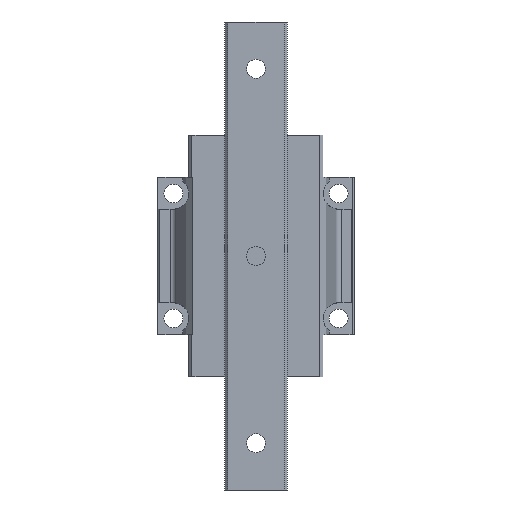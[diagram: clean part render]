
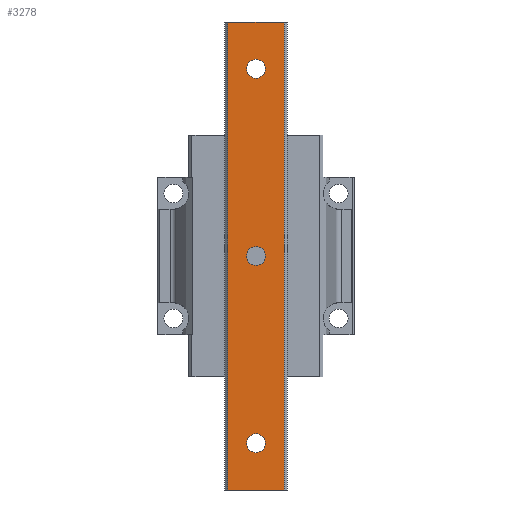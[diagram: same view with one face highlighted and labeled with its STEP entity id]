
A CAD part, front view. The second image highlights one B-rep face of the part: STEP entity #3278.
In plain terms, the highlighted planar face has unit normal (0, -1, 0).
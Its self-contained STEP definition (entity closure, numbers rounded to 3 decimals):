
#21 = AXIS2_PLACEMENT_3D ( 'NONE', #4701, #87, #6199 ) ;
#58 = VERTEX_POINT ( 'NONE', #2494 ) ;
#87 = DIRECTION ( 'NONE',  ( 0., 1., 0. ) ) ;
#235 = PLANE ( 'NONE',  #4754 ) ;
#254 = AXIS2_PLACEMENT_3D ( 'NONE', #7608, #3429, #2137 ) ;
#304 = CIRCLE ( 'NONE', #21, 3. ) ;
#331 = EDGE_CURVE ( 'NONE', #58, #2628, #2534, .T. ) ;
#347 = CARTESIAN_POINT ( 'NONE',  ( 9., -17.5, -75. ) ) ;
#463 = EDGE_CURVE ( 'NONE', #1224, #7275, #6432, .T. ) ;
#686 = CIRCLE ( 'NONE', #1517, 3. ) ;
#863 = DIRECTION ( 'NONE',  ( 0., -1., 0. ) ) ;
#1031 = ORIENTED_EDGE ( 'NONE', *, *, #5999, .T. ) ;
#1224 = VERTEX_POINT ( 'NONE', #1362 ) ;
#1246 = DIRECTION ( 'NONE',  ( 0., 0., -1. ) ) ;
#1305 = EDGE_CURVE ( 'NONE', #4854, #1670, #304, .T. ) ;
#1362 = CARTESIAN_POINT ( 'NONE',  ( 0., -17.5, 3. ) ) ;
#1402 = DIRECTION ( 'NONE',  ( 0., 1., 0. ) ) ;
#1509 = FACE_BOUND ( 'NONE', #4033, .T. ) ;
#1517 = AXIS2_PLACEMENT_3D ( 'NONE', #6060, #1955, #7933 ) ;
#1558 = DIRECTION ( 'NONE',  ( 0., 0., -1. ) ) ;
#1589 = CARTESIAN_POINT ( 'NONE',  ( 0., -17.5, -3. ) ) ;
#1670 = VERTEX_POINT ( 'NONE', #4354 ) ;
#1760 = CARTESIAN_POINT ( 'NONE',  ( -9., -17.5, -75. ) ) ;
#1955 = DIRECTION ( 'NONE',  ( 0., 1., 0. ) ) ;
#1958 = EDGE_CURVE ( 'NONE', #2825, #6017, #4551, .T. ) ;
#2031 = DIRECTION ( 'NONE',  ( 0., 0., 1. ) ) ;
#2049 = EDGE_LOOP ( 'NONE', ( #1031, #2946, #3529, #4748 ) ) ;
#2137 = DIRECTION ( 'NONE',  ( 0., 0., 1. ) ) ;
#2162 = FACE_OUTER_BOUND ( 'NONE', #2049, .T. ) ;
#2214 = CARTESIAN_POINT ( 'NONE',  ( -9., -17.5, -75. ) ) ;
#2414 = CARTESIAN_POINT ( 'NONE',  ( -9., -17.5, -75. ) ) ;
#2494 = CARTESIAN_POINT ( 'NONE',  ( 9., -17.5, 75. ) ) ;
#2531 = EDGE_CURVE ( 'NONE', #7275, #1224, #3167, .T. ) ;
#2534 = LINE ( 'NONE', #7158, #6923 ) ;
#2553 = ORIENTED_EDGE ( 'NONE', *, *, #463, .T. ) ;
#2578 = EDGE_CURVE ( 'NONE', #1670, #4854, #686, .T. ) ;
#2628 = VERTEX_POINT ( 'NONE', #4560 ) ;
#2775 = CARTESIAN_POINT ( 'NONE',  ( 0., -17.5, 0. ) ) ;
#2825 = VERTEX_POINT ( 'NONE', #4646 ) ;
#2841 = ORIENTED_EDGE ( 'NONE', *, *, #1305, .T. ) ;
#2946 = ORIENTED_EDGE ( 'NONE', *, *, #331, .T. ) ;
#3087 = DIRECTION ( 'NONE',  ( 0., 0., 1. ) ) ;
#3089 = VECTOR ( 'NONE', #3087, 1000. ) ;
#3151 = ORIENTED_EDGE ( 'NONE', *, *, #1958, .T. ) ;
#3167 = CIRCLE ( 'NONE', #7774, 3. ) ;
#3261 = DIRECTION ( 'NONE',  ( 0., 0., 1. ) ) ;
#3278 = ADVANCED_FACE ( 'NONE', ( #4066, #1509, #7465, #2162 ), #235, .T. ) ;
#3429 = DIRECTION ( 'NONE',  ( 0., 1., 0. ) ) ;
#3470 = DIRECTION ( 'NONE',  ( 1., 0., 0. ) ) ;
#3524 = LINE ( 'NONE', #2214, #5680 ) ;
#3529 = ORIENTED_EDGE ( 'NONE', *, *, #3790, .T. ) ;
#3790 = EDGE_CURVE ( 'NONE', #2628, #7003, #8482, .T. ) ;
#4033 = EDGE_LOOP ( 'NONE', ( #7313, #3151 ) ) ;
#4066 = FACE_BOUND ( 'NONE', #8055, .T. ) ;
#4188 = CARTESIAN_POINT ( 'NONE',  ( 0., -17.5, 0. ) ) ;
#4265 = ORIENTED_EDGE ( 'NONE', *, *, #2531, .T. ) ;
#4354 = CARTESIAN_POINT ( 'NONE',  ( 0., -17.5, -57. ) ) ;
#4499 = DIRECTION ( 'NONE',  ( 0., 1., 0. ) ) ;
#4551 = CIRCLE ( 'NONE', #254, 3. ) ;
#4560 = CARTESIAN_POINT ( 'NONE',  ( -9., -17.5, 75. ) ) ;
#4646 = CARTESIAN_POINT ( 'NONE',  ( 0., -17.5, 57. ) ) ;
#4699 = AXIS2_PLACEMENT_3D ( 'NONE', #5349, #4499, #2031 ) ;
#4701 = CARTESIAN_POINT ( 'NONE',  ( 0., -17.5, -60. ) ) ;
#4748 = ORIENTED_EDGE ( 'NONE', *, *, #7515, .T. ) ;
#4754 = AXIS2_PLACEMENT_3D ( 'NONE', #6828, #863, #1558 ) ;
#4854 = VERTEX_POINT ( 'NONE', #8261 ) ;
#5030 = VECTOR ( 'NONE', #1246, 1000. ) ;
#5093 = CARTESIAN_POINT ( 'NONE',  ( 0., -17.5, 63. ) ) ;
#5349 = CARTESIAN_POINT ( 'NONE',  ( 0., -17.5, 60. ) ) ;
#5401 = CIRCLE ( 'NONE', #4699, 3. ) ;
#5680 = VECTOR ( 'NONE', #3470, 1000. ) ;
#5856 = ORIENTED_EDGE ( 'NONE', *, *, #2578, .T. ) ;
#5999 = EDGE_CURVE ( 'NONE', #7009, #58, #6418, .T. ) ;
#6017 = VERTEX_POINT ( 'NONE', #5093 ) ;
#6033 = DIRECTION ( 'NONE',  ( 0., 1., 0. ) ) ;
#6060 = CARTESIAN_POINT ( 'NONE',  ( 0., -17.5, -60. ) ) ;
#6199 = DIRECTION ( 'NONE',  ( 0., 0., 1. ) ) ;
#6418 = LINE ( 'NONE', #347, #3089 ) ;
#6432 = CIRCLE ( 'NONE', #7236, 3. ) ;
#6828 = CARTESIAN_POINT ( 'NONE',  ( -9., -17.5, -75. ) ) ;
#6902 = DIRECTION ( 'NONE',  ( 0., 0., 1. ) ) ;
#6923 = VECTOR ( 'NONE', #7199, 1000. ) ;
#6954 = CARTESIAN_POINT ( 'NONE',  ( 9., -17.5, -75. ) ) ;
#7003 = VERTEX_POINT ( 'NONE', #2414 ) ;
#7009 = VERTEX_POINT ( 'NONE', #6954 ) ;
#7158 = CARTESIAN_POINT ( 'NONE',  ( -9., -17.5, 75. ) ) ;
#7199 = DIRECTION ( 'NONE',  ( -1., 0., 0. ) ) ;
#7236 = AXIS2_PLACEMENT_3D ( 'NONE', #4188, #6033, #6902 ) ;
#7275 = VERTEX_POINT ( 'NONE', #1589 ) ;
#7313 = ORIENTED_EDGE ( 'NONE', *, *, #7733, .T. ) ;
#7465 = FACE_BOUND ( 'NONE', #8169, .T. ) ;
#7515 = EDGE_CURVE ( 'NONE', #7003, #7009, #3524, .T. ) ;
#7608 = CARTESIAN_POINT ( 'NONE',  ( 0., -17.5, 60. ) ) ;
#7733 = EDGE_CURVE ( 'NONE', #6017, #2825, #5401, .T. ) ;
#7774 = AXIS2_PLACEMENT_3D ( 'NONE', #2775, #1402, #3261 ) ;
#7933 = DIRECTION ( 'NONE',  ( 0., 0., 1. ) ) ;
#8055 = EDGE_LOOP ( 'NONE', ( #2553, #4265 ) ) ;
#8169 = EDGE_LOOP ( 'NONE', ( #5856, #2841 ) ) ;
#8261 = CARTESIAN_POINT ( 'NONE',  ( 0., -17.5, -63. ) ) ;
#8482 = LINE ( 'NONE', #1760, #5030 ) ;
